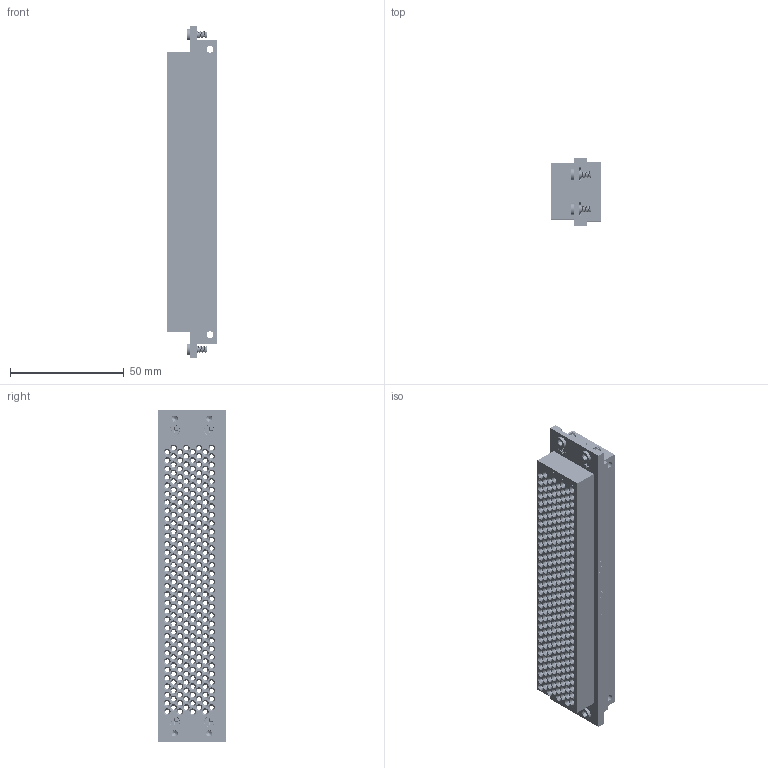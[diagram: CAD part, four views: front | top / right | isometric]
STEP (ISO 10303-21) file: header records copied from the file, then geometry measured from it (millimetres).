
FILE_DESCRIPTION((''),'2;1');
FILE_NAME('C:\copy my documents\Inventor\web site project\Receiver Modules\561680-RevA-STP.stp','2013-09-24T16:12:25',('davecooper'),(''),'Autodesk Inventor 2011','Autodesk Inventor 2011','');
FILE_SCHEMA(('AUTOMOTIVE_DESIGN { 1 0 10303 214 1 1 1 1 }'));
Length unit declared in the file: inch
Products named in the file (1): 561680-CU
Bounding box: 22.17 x 29.97 x 146.05 mm (x, y, z)
Volume: 53001.8 mm3; surface area: 56855.8 mm2
Topology: 1 solids, 1 shells, 4014 faces, 9051 edges, 5897 vertices
Faces by surface type: plane 1624, cylinder 1146, bspline 698, cone 546
Full cylindrical faces by diameter (mm): 0.005 x4, 1.829 x256, 2.083 x512, 2.184 x8, 2.381 x4, 2.438 x4, 2.845 x24, 2.921 x256, 2.946 x2, 3.429 x4, 3.962 x8, 4.064 x4, 5.08 x4
Entity records: 112461 total; most frequent: CARTESIAN_POINT 28952, DIRECTION 15088, ORIENTED_EDGE 14060, EDGE_CURVE 7030, EDGE_LOOP 6984, AXIS2_PLACEMENT_3D 6231, VERTEX_POINT 5512, STYLED_ITEM 3985
